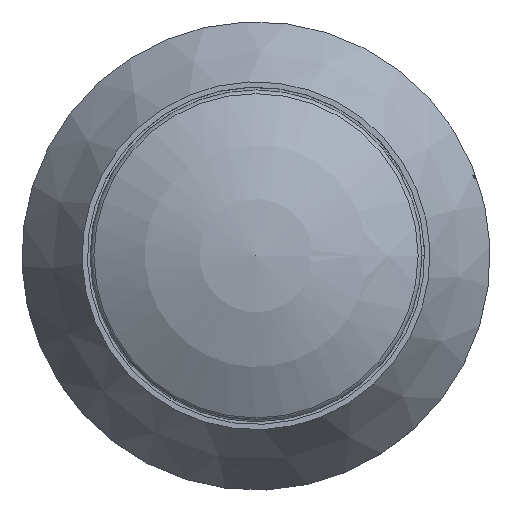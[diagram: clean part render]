
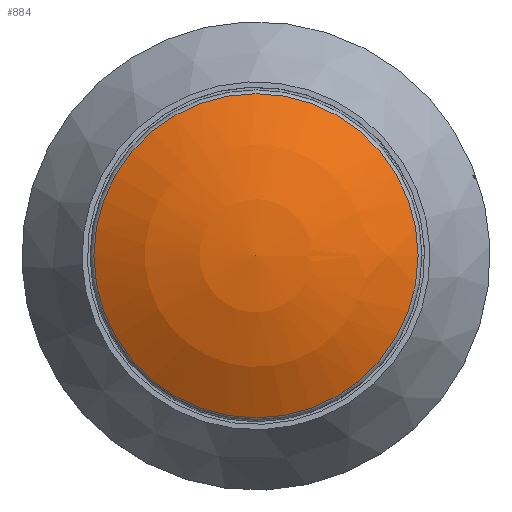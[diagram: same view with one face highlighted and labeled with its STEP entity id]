
A CAD part, top view. The second image highlights one B-rep face of the part: STEP entity #884.
In plain terms, the highlighted spherical face has radius 11.578 mm.
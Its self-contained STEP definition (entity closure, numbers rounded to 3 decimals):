
#665=SPHERICAL_SURFACE('',#4602,11.578);
#691=FACE_OUTER_BOUND('',#2082,.T.);
#884=ADVANCED_FACE('',(#691),#665,.T.);
#2082=EDGE_LOOP('',(#2386));
#2386=ORIENTED_EDGE('',*,*,#3906,.T.);
#3518=VERTEX_POINT('',#6048);
#3906=EDGE_CURVE('',#3518,#3518,#4467,.T.);
#4467=CIRCLE('',#4601,6.057);
#4601=AXIS2_PLACEMENT_3D('',#6047,#4977,#4978);
#4602=AXIS2_PLACEMENT_3D('',#6049,#4979,#4980);
#4977=DIRECTION('',(0.,0.,1.));
#4978=DIRECTION('',(-1.,0.,0.));
#4979=DIRECTION('',(0.,0.,-1.));
#4980=DIRECTION('',(1.,0.,0.));
#6047=CARTESIAN_POINT('',(0.,0.,15.589));
#6048=CARTESIAN_POINT('',(-6.057,0.,15.589));
#6049=CARTESIAN_POINT('',(0.,0.,5.722));
